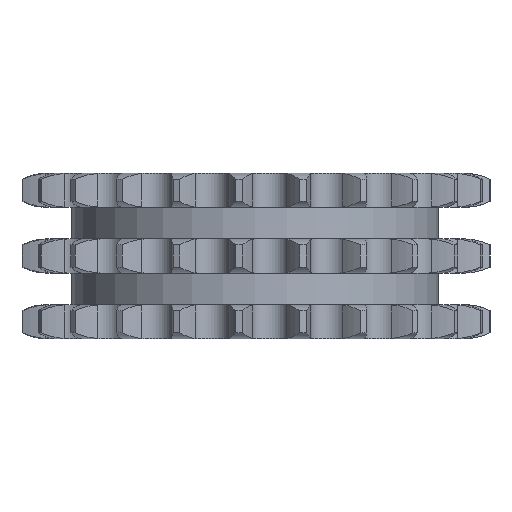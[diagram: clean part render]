
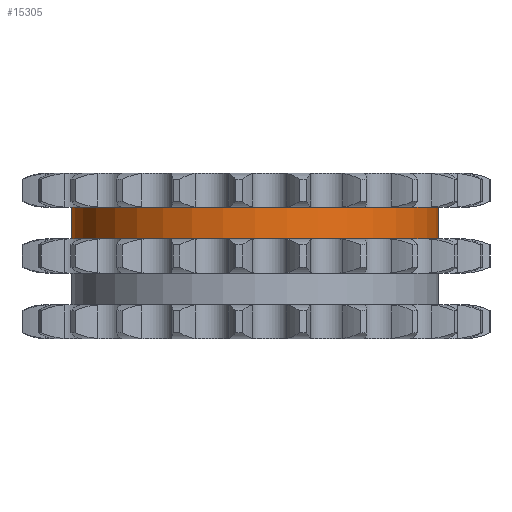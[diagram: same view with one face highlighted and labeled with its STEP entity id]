
A CAD part, left-side view. The second image highlights one B-rep face of the part: STEP entity #15305.
In plain terms, the highlighted cylindrical face has radius 38.634 mm (diameter 77.268 mm), a partial arc.
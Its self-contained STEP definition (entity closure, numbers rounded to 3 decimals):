
#1562=DIRECTION('',(0.,0.,-1.));
#1563=VECTOR('',#1562,6.65);
#1564=CARTESIAN_POINT('',(0.,38.634,10.25));
#1565=LINE('',#1564,#1563);
#1569=CARTESIAN_POINT('',(0.,0.,10.25));
#1570=DIRECTION('',(0.,0.,1.));
#1571=DIRECTION('',(0.,1.,0.));
#1572=AXIS2_PLACEMENT_3D('',#1569,#1570,#1571);
#1577=DIRECTION('',(0.,0.,-1.));
#1578=VECTOR('',#1577,6.65);
#1579=CARTESIAN_POINT('',(0.,-38.634,10.25));
#1580=LINE('',#1579,#1578);
#1584=CARTESIAN_POINT('',(0.,0.,3.6));
#1585=DIRECTION('',(0.,0.,1.));
#1586=DIRECTION('',(0.,1.,0.));
#1587=AXIS2_PLACEMENT_3D('',#1584,#1585,#1586);
#12221=CARTESIAN_POINT('',(0.,38.634,10.25));
#12222=CARTESIAN_POINT('',(0.,38.634,3.6));
#12223=VERTEX_POINT('',#12221);
#12224=VERTEX_POINT('',#12222);
#12225=CARTESIAN_POINT('',(0.,-38.634,10.25));
#12226=CARTESIAN_POINT('',(0.,-38.634,3.6));
#12227=VERTEX_POINT('',#12225);
#12228=VERTEX_POINT('',#12226);
#15293=CARTESIAN_POINT('',(0.,0.,11.275));
#15294=DIRECTION('',(0.,0.,-1.));
#15295=DIRECTION('',(0.,-1.,0.));
#15296=AXIS2_PLACEMENT_3D('',#15293,#15294,#15295);
#15297=CYLINDRICAL_SURFACE('',#15296,38.634);
#15298=ORIENTED_EDGE('',*,*,#15283,.F.);
#15299=ORIENTED_EDGE('',*,*,#15273,.T.);
#15300=ORIENTED_EDGE('',*,*,#15287,.T.);
#15302=ORIENTED_EDGE('',*,*,#15301,.F.);
#15303=EDGE_LOOP('',(#15298,#15299,#15300,#15302));
#15304=FACE_OUTER_BOUND('',#15303,.F.);
#15305=ADVANCED_FACE('',(#15304),#15297,.T.);
#1573=CIRCLE('',#1572,38.634);
#1588=CIRCLE('',#1587,38.634);
#15273=EDGE_CURVE('',#12223,#12227,#1573,.T.);
#15283=EDGE_CURVE('',#12223,#12224,#1565,.T.);
#15287=EDGE_CURVE('',#12227,#12228,#1580,.T.);
#15301=EDGE_CURVE('',#12224,#12228,#1588,.T.);
